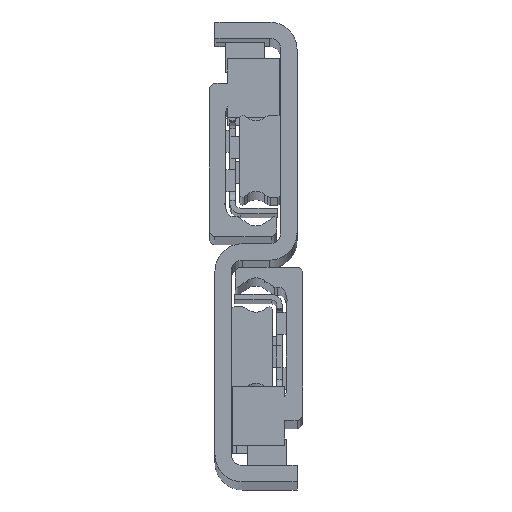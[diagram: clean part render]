
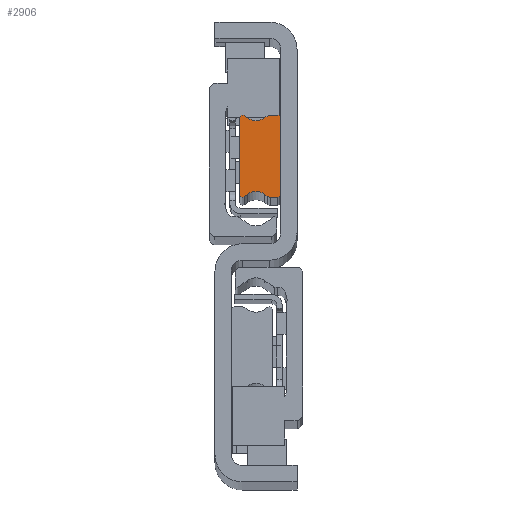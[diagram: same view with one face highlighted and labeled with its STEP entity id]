
A CAD part, top view. The second image highlights one B-rep face of the part: STEP entity #2906.
In plain terms, the highlighted planar face has unit normal (0, 0, 1) as drawn and (0, 0, -1) by its records, which use the part's own axes.
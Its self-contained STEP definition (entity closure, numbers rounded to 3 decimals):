
#10 = ORIENTED_EDGE ( 'NONE', *, *, #2372, .F. ) ;
#538 = AXIS2_PLACEMENT_3D ( 'NONE', #5574, #4466, #9803 ) ;
#610 = AXIS2_PLACEMENT_3D ( 'NONE', #10059, #3756, #7310 ) ;
#696 = CARTESIAN_POINT ( 'NONE',  ( 1.873, 7.5, 0. ) ) ;
#782 = VECTOR ( 'NONE', #9297, 1000. ) ;
#1099 = DIRECTION ( 'NONE',  ( -1., 0., 0. ) ) ;
#1143 = DIRECTION ( 'NONE',  ( -1., 0., 0. ) ) ;
#1158 = CARTESIAN_POINT ( 'NONE',  ( 0.5, 7.5, 0. ) ) ;
#1415 = ORIENTED_EDGE ( 'NONE', *, *, #10408, .F. ) ;
#1428 = EDGE_CURVE ( 'NONE', #7502, #12582, #6630, .T. ) ;
#1525 = VERTEX_POINT ( 'NONE', #4597 ) ;
#1550 = CARTESIAN_POINT ( 'NONE',  ( 6.677, -7.405, 0. ) ) ;
#1656 = DIRECTION ( 'NONE',  ( -0.819, -0.574, 0. ) ) ;
#1684 = AXIS2_PLACEMENT_3D ( 'NONE', #5911, #6885, #6931 ) ;
#1863 = VECTOR ( 'NONE', #13584, 1000. ) ;
#1882 = ORIENTED_EDGE ( 'NONE', *, *, #6635, .F. ) ;
#2332 = CARTESIAN_POINT ( 'NONE',  ( 6.977, 6.977, 0. ) ) ;
#2372 = EDGE_CURVE ( 'NONE', #4694, #2770, #5284, .T. ) ;
#2438 = ORIENTED_EDGE ( 'NONE', *, *, #7375, .F. ) ;
#2770 = VERTEX_POINT ( 'NONE', #13585 ) ;
#2843 = CIRCLE ( 'NONE', #6047, 1. ) ;
#2906 = ADVANCED_FACE ( 'NONE', ( #8890 ), #3425, .T. ) ;
#2947 = VERTEX_POINT ( 'NONE', #12912 ) ;
#3034 = CARTESIAN_POINT ( 'NONE',  ( 4.5, -9.272, 0. ) ) ;
#3149 = EDGE_CURVE ( 'NONE', #12412, #2947, #9541, .T. ) ;
#3195 = VERTEX_POINT ( 'NONE', #4092 ) ;
#3294 = CARTESIAN_POINT ( 'NONE',  ( 0.5, -7.5, 0. ) ) ;
#3342 = ORIENTED_EDGE ( 'NONE', *, *, #1428, .F. ) ;
#3348 = VERTEX_POINT ( 'NONE', #7436 ) ;
#3357 = LINE ( 'NONE', #5087, #9287 ) ;
#3397 = VERTEX_POINT ( 'NONE', #8459 ) ;
#3425 = PLANE ( 'NONE',  #538 ) ;
#3454 = CIRCLE ( 'NONE', #1684, 0.5 ) ;
#3717 = CARTESIAN_POINT ( 'NONE',  ( 1.873, -7.5, 0. ) ) ;
#3756 = DIRECTION ( 'NONE',  ( 0., 0., 1. ) ) ;
#3933 = DIRECTION ( 'NONE',  ( -1., 0., 0. ) ) ;
#3957 = DIRECTION ( 'NONE',  ( 1., 0., 0. ) ) ;
#4083 = DIRECTION ( 'NONE',  ( 0., 0., -1. ) ) ;
#4092 = CARTESIAN_POINT ( 'NONE',  ( 7.5, 6.977, 0. ) ) ;
#4322 = DIRECTION ( 'NONE',  ( 0., 0., 1. ) ) ;
#4368 = EDGE_CURVE ( 'NONE', #2947, #7502, #10161, .T. ) ;
#4453 = VERTEX_POINT ( 'NONE', #8854 ) ;
#4466 = DIRECTION ( 'NONE',  ( 0., 0., -1. ) ) ;
#4484 = CARTESIAN_POINT ( 'NONE',  ( 2.907, 6.997, 0. ) ) ;
#4576 = DIRECTION ( 'NONE',  ( 0.819, 0.574, 0. ) ) ;
#4597 = CARTESIAN_POINT ( 'NONE',  ( 2.446, -7.319, 0. ) ) ;
#4655 = CIRCLE ( 'NONE', #8942, 2.778 ) ;
#4694 = VERTEX_POINT ( 'NONE', #5042 ) ;
#4770 = DIRECTION ( 'NONE',  ( 1., 0., 0. ) ) ;
#4881 = CARTESIAN_POINT ( 'NONE',  ( 2.446, 7.319, 0. ) ) ;
#5042 = CARTESIAN_POINT ( 'NONE',  ( 0., 7., 0. ) ) ;
#5087 = CARTESIAN_POINT ( 'NONE',  ( 7.5, 6.977, 0. ) ) ;
#5118 = ORIENTED_EDGE ( 'NONE', *, *, #8041, .F. ) ;
#5232 = CARTESIAN_POINT ( 'NONE',  ( 1.873, -6.5, 0. ) ) ;
#5284 = LINE ( 'NONE', #10888, #5453 ) ;
#5453 = VECTOR ( 'NONE', #8819, 1000. ) ;
#5574 = CARTESIAN_POINT ( 'NONE',  ( 6.977, 6.977, 0. ) ) ;
#5688 = CARTESIAN_POINT ( 'NONE',  ( 6.093, 6.997, 0. ) ) ;
#5699 = ORIENTED_EDGE ( 'NONE', *, *, #11267, .F. ) ;
#5849 = ORIENTED_EDGE ( 'NONE', *, *, #12342, .F. ) ;
#5911 = CARTESIAN_POINT ( 'NONE',  ( 0.5, 7., 0. ) ) ;
#6000 = VERTEX_POINT ( 'NONE', #7719 ) ;
#6037 = CIRCLE ( 'NONE', #11297, 0.523 ) ;
#6047 = AXIS2_PLACEMENT_3D ( 'NONE', #5232, #10614, #1099 ) ;
#6361 = ORIENTED_EDGE ( 'NONE', *, *, #11166, .F. ) ;
#6422 = CIRCLE ( 'NONE', #13106, 0.5 ) ;
#6630 = LINE ( 'NONE', #1158, #1863 ) ;
#6635 = EDGE_CURVE ( 'NONE', #1525, #3397, #13011, .T. ) ;
#6885 = DIRECTION ( 'NONE',  ( 0., 0., 1. ) ) ;
#6920 = CARTESIAN_POINT ( 'NONE',  ( 1.873, -7.5, 0. ) ) ;
#6931 = DIRECTION ( 'NONE',  ( -1., 0., 0. ) ) ;
#7010 = ORIENTED_EDGE ( 'NONE', *, *, #4368, .F. ) ;
#7167 = CIRCLE ( 'NONE', #11410, 0.523 ) ;
#7265 = CARTESIAN_POINT ( 'NONE',  ( 6.677, -7.405, 0. ) ) ;
#7310 = DIRECTION ( 'NONE',  ( -1., 0., 0. ) ) ;
#7375 = EDGE_CURVE ( 'NONE', #12582, #4694, #3454, .T. ) ;
#7436 = CARTESIAN_POINT ( 'NONE',  ( 7.5, -6.977, 0. ) ) ;
#7502 = VERTEX_POINT ( 'NONE', #696 ) ;
#7668 = DIRECTION ( 'NONE',  ( 0., 0., 1. ) ) ;
#7719 = CARTESIAN_POINT ( 'NONE',  ( 6.093, 6.997, 0. ) ) ;
#8041 = EDGE_CURVE ( 'NONE', #2770, #11846, #6422, .T. ) ;
#8282 = CIRCLE ( 'NONE', #12710, 2.778 ) ;
#8322 = DIRECTION ( 'NONE',  ( 1., 0., 0. ) ) ;
#8396 = VECTOR ( 'NONE', #4576, 1000. ) ;
#8459 = CARTESIAN_POINT ( 'NONE',  ( 2.907, -6.997, 0. ) ) ;
#8477 = VECTOR ( 'NONE', #4770, 1000. ) ;
#8819 = DIRECTION ( 'NONE',  ( 0., -1., 0. ) ) ;
#8854 = CARTESIAN_POINT ( 'NONE',  ( 6.677, 7.405, 0. ) ) ;
#8890 = FACE_OUTER_BOUND ( 'NONE', #10989, .T. ) ;
#8911 = CARTESIAN_POINT ( 'NONE',  ( 0.5, 7.5, 0. ) ) ;
#8914 = VERTEX_POINT ( 'NONE', #6920 ) ;
#8942 = AXIS2_PLACEMENT_3D ( 'NONE', #3034, #4083, #8322 ) ;
#9287 = VECTOR ( 'NONE', #9332, 1000. ) ;
#9297 = DIRECTION ( 'NONE',  ( 0.819, -0.574, 0. ) ) ;
#9332 = DIRECTION ( 'NONE',  ( 0., 1., 0. ) ) ;
#9360 = CARTESIAN_POINT ( 'NONE',  ( 6.977, -6.977, 0. ) ) ;
#9381 = CARTESIAN_POINT ( 'NONE',  ( 4.5, 9.272, 0. ) ) ;
#9541 = LINE ( 'NONE', #4881, #11667 ) ;
#9601 = ORIENTED_EDGE ( 'NONE', *, *, #11760, .F. ) ;
#9652 = CARTESIAN_POINT ( 'NONE',  ( 2.907, -6.997, 0. ) ) ;
#9730 = VECTOR ( 'NONE', #1656, 1000. ) ;
#9803 = DIRECTION ( 'NONE',  ( -1., 0., 0. ) ) ;
#10059 = CARTESIAN_POINT ( 'NONE',  ( 1.873, 6.5, 0. ) ) ;
#10083 = ORIENTED_EDGE ( 'NONE', *, *, #11671, .F. ) ;
#10161 = CIRCLE ( 'NONE', #610, 1. ) ;
#10408 = EDGE_CURVE ( 'NONE', #10688, #3348, #6037, .T. ) ;
#10499 = CARTESIAN_POINT ( 'NONE',  ( 0.5, -7., 0. ) ) ;
#10614 = DIRECTION ( 'NONE',  ( 0., 0., 1. ) ) ;
#10642 = CARTESIAN_POINT ( 'NONE',  ( 6.093, -6.997, 0. ) ) ;
#10659 = DIRECTION ( 'NONE',  ( -1., 0., 0. ) ) ;
#10688 = VERTEX_POINT ( 'NONE', #1550 ) ;
#10888 = CARTESIAN_POINT ( 'NONE',  ( 0., -7., 0. ) ) ;
#10989 = EDGE_LOOP ( 'NONE', ( #5699, #9601, #1415, #6361, #10083, #1882, #5849, #12709, #5118, #10, #2438, #3342, #7010, #11174, #13121, #13259 ) ) ;
#11130 = EDGE_CURVE ( 'NONE', #11846, #8914, #13238, .T. ) ;
#11166 = EDGE_CURVE ( 'NONE', #11905, #10688, #12267, .T. ) ;
#11174 = ORIENTED_EDGE ( 'NONE', *, *, #3149, .F. ) ;
#11267 = EDGE_CURVE ( 'NONE', #3195, #4453, #7167, .T. ) ;
#11297 = AXIS2_PLACEMENT_3D ( 'NONE', #9360, #13578, #3933 ) ;
#11318 = DIRECTION ( 'NONE',  ( 0., 0., -1. ) ) ;
#11410 = AXIS2_PLACEMENT_3D ( 'NONE', #2332, #7668, #10659 ) ;
#11667 = VECTOR ( 'NONE', #12254, 1000. ) ;
#11671 = EDGE_CURVE ( 'NONE', #3397, #11905, #4655, .T. ) ;
#11760 = EDGE_CURVE ( 'NONE', #3348, #3195, #3357, .T. ) ;
#11846 = VERTEX_POINT ( 'NONE', #3294 ) ;
#11905 = VERTEX_POINT ( 'NONE', #10642 ) ;
#12153 = EDGE_CURVE ( 'NONE', #6000, #12412, #8282, .T. ) ;
#12254 = DIRECTION ( 'NONE',  ( -0.819, 0.574, 0. ) ) ;
#12267 = LINE ( 'NONE', #7265, #782 ) ;
#12342 = EDGE_CURVE ( 'NONE', #8914, #1525, #2843, .T. ) ;
#12375 = LINE ( 'NONE', #5688, #9730 ) ;
#12412 = VERTEX_POINT ( 'NONE', #4484 ) ;
#12571 = EDGE_CURVE ( 'NONE', #4453, #6000, #12375, .T. ) ;
#12582 = VERTEX_POINT ( 'NONE', #8911 ) ;
#12709 = ORIENTED_EDGE ( 'NONE', *, *, #11130, .F. ) ;
#12710 = AXIS2_PLACEMENT_3D ( 'NONE', #9381, #11318, #3957 ) ;
#12912 = CARTESIAN_POINT ( 'NONE',  ( 2.446, 7.319, 0. ) ) ;
#13011 = LINE ( 'NONE', #9652, #8396 ) ;
#13106 = AXIS2_PLACEMENT_3D ( 'NONE', #10499, #4322, #1143 ) ;
#13121 = ORIENTED_EDGE ( 'NONE', *, *, #12153, .F. ) ;
#13238 = LINE ( 'NONE', #3717, #8477 ) ;
#13259 = ORIENTED_EDGE ( 'NONE', *, *, #12571, .F. ) ;
#13578 = DIRECTION ( 'NONE',  ( 0., 0., 1. ) ) ;
#13584 = DIRECTION ( 'NONE',  ( -1., 0., 0. ) ) ;
#13585 = CARTESIAN_POINT ( 'NONE',  ( 0., -7., 0. ) ) ;
